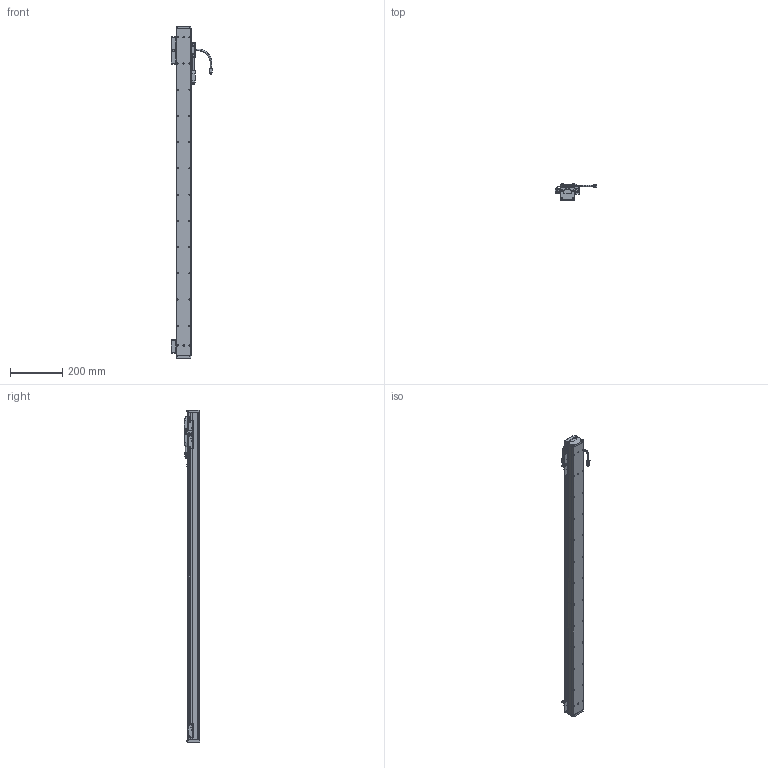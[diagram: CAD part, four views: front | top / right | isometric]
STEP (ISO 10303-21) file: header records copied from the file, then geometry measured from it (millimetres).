
FILE_DESCRIPTION(('Open CASCADE Model'),'2;1');
FILE_NAME('Open CASCADE Shape Model','2025-11-07T00:57:17',('Author'),( 'Open CASCADE'),'Open CASCADE STEP processor 7.6','Open CASCADE 7.6' ,'Unknown');
FILE_SCHEMA(('AUTOMOTIVE_DESIGN { 1 0 10303 214 1 1 1 1 }'));
Length unit declared in the file: millimetre
Products named in the file (25): Open CASCADE STEP translator 7.6 110; Open CASCADE STEP translator 7.6 110.1; Open CASCADE STEP translator 7.6 110.2; Open CASCADE STEP translator 7.6 110.3; Open CASCADE STEP translator 7.6 110.4; Open CASCADE STEP translator 7.6 110.5; Open CASCADE STEP translator 7.6 110.6; Open CASCADE STEP translator 7.6 110.7; Open CASCADE STEP translator 7.6 110.8; Open CASCADE STEP translator 7.6 110.9; Open CASCADE STEP translator 7.6 110.10; Open CASCADE STEP translator 7.6 110.11; Open CASCADE STEP translator 7.6 110.12; Open CASCADE STEP translator 7.6 110.13; Open CASCADE STEP translator 7.6 110.14; Open CASCADE STEP translator 7.6 110.14.1; Open CASCADE STEP translator 7.6 110.14.1.1; Open CASCADE STEP translator 7.6 110.14.1.2; Open CASCADE STEP translator 7.6 110.14.1.3; Open CASCADE STEP translator 7.6 110.14.1.4; Open CASCADE STEP translator 7.6 110.14.1.5; Open CASCADE STEP translator 7.6 110.15; Open CASCADE STEP translator 7.6 110.16; Open CASCADE STEP translator 7.6 110.17; Open CASCADE STEP translator 7.6 110.18
Assembly tree (24 placements, depth 4):
  Open CASCADE STEP translator 7.6 110
    Open CASCADE STEP translator 7.6 110.1
    Open CASCADE STEP translator 7.6 110.2
    Open CASCADE STEP translator 7.6 110.3
    Open CASCADE STEP translator 7.6 110.4
    Open CASCADE STEP translator 7.6 110.5
    Open CASCADE STEP translator 7.6 110.6
    Open CASCADE STEP translator 7.6 110.7
    Open CASCADE STEP translator 7.6 110.8
    Open CASCADE STEP translator 7.6 110.9
    Open CASCADE STEP translator 7.6 110.10
    Open CASCADE STEP translator 7.6 110.11
    Open CASCADE STEP translator 7.6 110.12
    Open CASCADE STEP translator 7.6 110.13
    Open CASCADE STEP translator 7.6 110.14
      Open CASCADE STEP translator 7.6 110.14.1
        Open CASCADE STEP translator 7.6 110.14.1.1
        Open CASCADE STEP translator 7.6 110.14.1.2
        Open CASCADE STEP translator 7.6 110.14.1.3
        Open CASCADE STEP translator 7.6 110.14.1.4
        Open CASCADE STEP translator 7.6 110.14.1.5
    Open CASCADE STEP translator 7.6 110.15
    Open CASCADE STEP translator 7.6 110.16
    Open CASCADE STEP translator 7.6 110.17
    Open CASCADE STEP translator 7.6 110.18
Bounding box: 158 x 60 x 1266 mm (x, y, z)
Volume: 3386429 mm3; surface area: 409460.6 mm2
Topology: 22 solids, 23 shells, 1939 faces, 4833 edges, 3064 vertices
Faces by surface type: plane 991, cylinder 736, bspline 112, cone 84, torus 16
Entity records: 147622 total; most frequent: CARTESIAN_POINT 52569, DIRECTION 17438, LINE 10607, VECTOR 10607, ORIENTED_EDGE 9532, PCURVE 9532, DEFINITIONAL_REPRESENTATION 9532, EDGE_CURVE 4766
